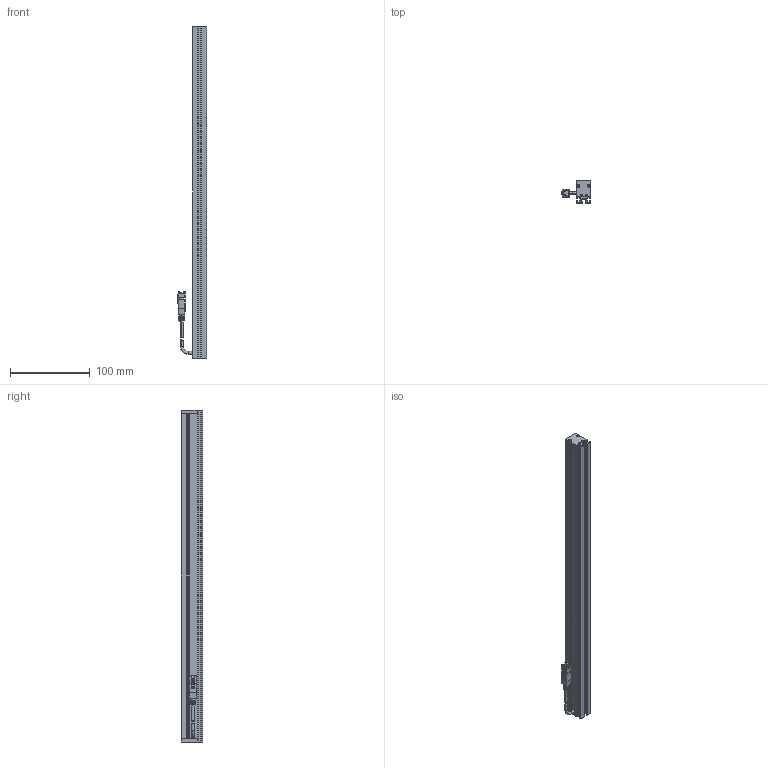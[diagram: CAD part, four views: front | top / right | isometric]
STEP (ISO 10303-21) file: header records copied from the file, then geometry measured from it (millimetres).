
FILE_DESCRIPTION (( 'STEP AP203' ), '1' );
FILE_NAME ('CK-BL41718.STEP', '2025-12-26T08:24:42', ( '' ), ( '' ), 'SwSTEP 2.0', 'SolidWorks 2022', '' );
FILE_SCHEMA (( 'CONFIG_CONTROL_DESIGN' ));
Length unit declared in the file: millimetre
Products named in the file (6): 光源线-01; 十字沉头螺丝 M2x10; CK-BL41718-002A; CK-BL41718-001A; CK-BL41718; CK-BL41718-003A
Assembly tree (9 placements, depth 2):
  CK-BL41718
    CK-BL41718-001A
    CK-BL41718-002A  x2
    CK-BL41718-003A
    光源线-01
    十字沉头螺丝 M2x10  x4
Bounding box: 37.34 x 27 x 417 mm (x, y, z)
Volume: 94848.6 mm3; surface area: 93656 mm2
Topology: 11 solids, 11 shells, 474 faces, 1231 edges, 780 vertices
Faces by surface type: plane 271, cylinder 149, cone 34, bspline 20
Entity records: 12442 total; most frequent: CARTESIAN_POINT 2514, ORIENTED_EDGE 1936, DIRECTION 1916, EDGE_CURVE 968, LINE 668, VECTOR 668, VERTEX_POINT 626, AXIS2_PLACEMENT_3D 624
